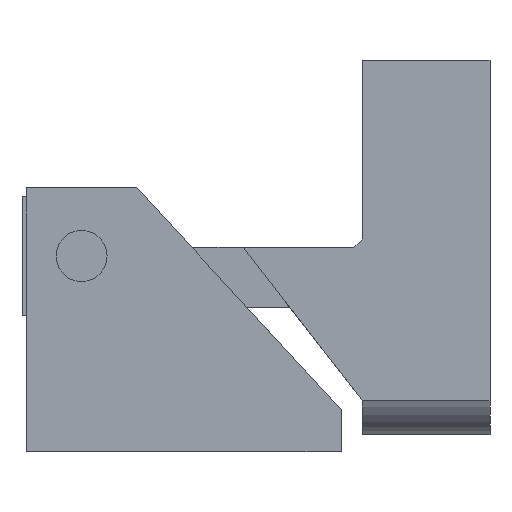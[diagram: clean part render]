
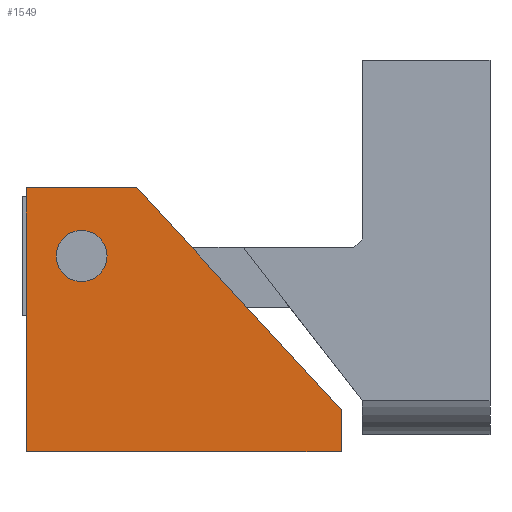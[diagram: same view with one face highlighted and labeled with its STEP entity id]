
A CAD part, front view. The second image highlights one B-rep face of the part: STEP entity #1549.
In plain terms, the highlighted planar face has unit normal (0, -1, 0).
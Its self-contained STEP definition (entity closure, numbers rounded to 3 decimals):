
#20 = LINE ( 'NONE', #686, #2762 ) ;
#58 = VECTOR ( 'NONE', #4040, 1000. ) ;
#72 = VERTEX_POINT ( 'NONE', #4369 ) ;
#127 = ORIENTED_EDGE ( 'NONE', *, *, #3933, .T. ) ;
#138 = CARTESIAN_POINT ( 'NONE',  ( 6.5, 0., -5. ) ) ;
#192 = VERTEX_POINT ( 'NONE', #1003 ) ;
#230 = DIRECTION ( 'NONE',  ( 0., -1., 0. ) ) ;
#237 = AXIS2_PLACEMENT_3D ( 'NONE', #4376, #1268, #1622 ) ;
#308 = ORIENTED_EDGE ( 'NONE', *, *, #3703, .F. ) ;
#432 = EDGE_CURVE ( 'NONE', #966, #3935, #1994, .T. ) ;
#544 = EDGE_CURVE ( 'NONE', #192, #3977, #2207, .T. ) ;
#686 = CARTESIAN_POINT ( 'NONE',  ( 0., 0., 0. ) ) ;
#730 = ORIENTED_EDGE ( 'NONE', *, *, #3927, .F. ) ;
#770 = EDGE_CURVE ( 'NONE', #72, #3977, #1657, .T. ) ;
#816 = VECTOR ( 'NONE', #2435, 1000. ) ;
#966 = VERTEX_POINT ( 'NONE', #2218 ) ;
#1003 = CARTESIAN_POINT ( 'NONE',  ( 37., 0., -31. ) ) ;
#1006 = ORIENTED_EDGE ( 'NONE', *, *, #432, .F. ) ;
#1053 = CARTESIAN_POINT ( 'NONE',  ( 0., 0., -31. ) ) ;
#1210 = LINE ( 'NONE', #1908, #1247 ) ;
#1229 = DIRECTION ( 'NONE',  ( 0., 0., 1. ) ) ;
#1247 = VECTOR ( 'NONE', #1229, 1000. ) ;
#1268 = DIRECTION ( 'NONE',  ( 0., -1., 0. ) ) ;
#1416 = EDGE_LOOP ( 'NONE', ( #1006, #308 ) ) ;
#1549 = ADVANCED_FACE ( 'NONE', ( #3644, #2983 ), #3307, .T. ) ;
#1622 = DIRECTION ( 'NONE',  ( 0., 0., -1. ) ) ;
#1657 = LINE ( 'NONE', #2298, #58 ) ;
#1724 = DIRECTION ( 'NONE',  ( 0., -1., 0. ) ) ;
#1830 = EDGE_LOOP ( 'NONE', ( #2561, #730, #4278, #127, #2171 ) ) ;
#1834 = CARTESIAN_POINT ( 'NONE',  ( 0., 0., -31. ) ) ;
#1884 = DIRECTION ( 'NONE',  ( 0., 0., 1. ) ) ;
#1908 = CARTESIAN_POINT ( 'NONE',  ( 0., 0., -31. ) ) ;
#1994 = CIRCLE ( 'NONE', #2784, 3. ) ;
#2140 = CARTESIAN_POINT ( 'NONE',  ( 6.5, 0., -8. ) ) ;
#2171 = ORIENTED_EDGE ( 'NONE', *, *, #544, .T. ) ;
#2207 = LINE ( 'NONE', #3931, #4387 ) ;
#2218 = CARTESIAN_POINT ( 'NONE',  ( 6.5, 0., -11. ) ) ;
#2298 = CARTESIAN_POINT ( 'NONE',  ( 13., 0., 0. ) ) ;
#2435 = DIRECTION ( 'NONE',  ( 1., 0., 0. ) ) ;
#2451 = CARTESIAN_POINT ( 'NONE',  ( 0., 0., 0. ) ) ;
#2561 = ORIENTED_EDGE ( 'NONE', *, *, #770, .F. ) ;
#2709 = DIRECTION ( 'NONE',  ( 0., 0., -1. ) ) ;
#2762 = VECTOR ( 'NONE', #4181, 1000. ) ;
#2784 = AXIS2_PLACEMENT_3D ( 'NONE', #2140, #1724, #3520 ) ;
#2848 = EDGE_CURVE ( 'NONE', #3007, #4407, #1210, .T. ) ;
#2983 = FACE_OUTER_BOUND ( 'NONE', #1830, .T. ) ;
#3007 = VERTEX_POINT ( 'NONE', #1834 ) ;
#3253 = CARTESIAN_POINT ( 'NONE',  ( 37., 0., -26. ) ) ;
#3304 = AXIS2_PLACEMENT_3D ( 'NONE', #4420, #230, #2709 ) ;
#3307 = PLANE ( 'NONE',  #237 ) ;
#3520 = DIRECTION ( 'NONE',  ( 0., 0., -1. ) ) ;
#3644 = FACE_BOUND ( 'NONE', #1416, .T. ) ;
#3703 = EDGE_CURVE ( 'NONE', #3935, #966, #4096, .T. ) ;
#3927 = EDGE_CURVE ( 'NONE', #4407, #72, #20, .T. ) ;
#3931 = CARTESIAN_POINT ( 'NONE',  ( 37., 0., -31. ) ) ;
#3933 = EDGE_CURVE ( 'NONE', #3007, #192, #4157, .T. ) ;
#3935 = VERTEX_POINT ( 'NONE', #138 ) ;
#3977 = VERTEX_POINT ( 'NONE', #3253 ) ;
#4040 = DIRECTION ( 'NONE',  ( 0.678, 0., -0.735 ) ) ;
#4096 = CIRCLE ( 'NONE', #3304, 3. ) ;
#4157 = LINE ( 'NONE', #1053, #816 ) ;
#4181 = DIRECTION ( 'NONE',  ( 1., 0., 0. ) ) ;
#4278 = ORIENTED_EDGE ( 'NONE', *, *, #2848, .F. ) ;
#4369 = CARTESIAN_POINT ( 'NONE',  ( 13., 0., 0. ) ) ;
#4376 = CARTESIAN_POINT ( 'NONE',  ( 0., 0., -31. ) ) ;
#4387 = VECTOR ( 'NONE', #1884, 1000. ) ;
#4407 = VERTEX_POINT ( 'NONE', #2451 ) ;
#4420 = CARTESIAN_POINT ( 'NONE',  ( 6.5, 0., -8. ) ) ;
